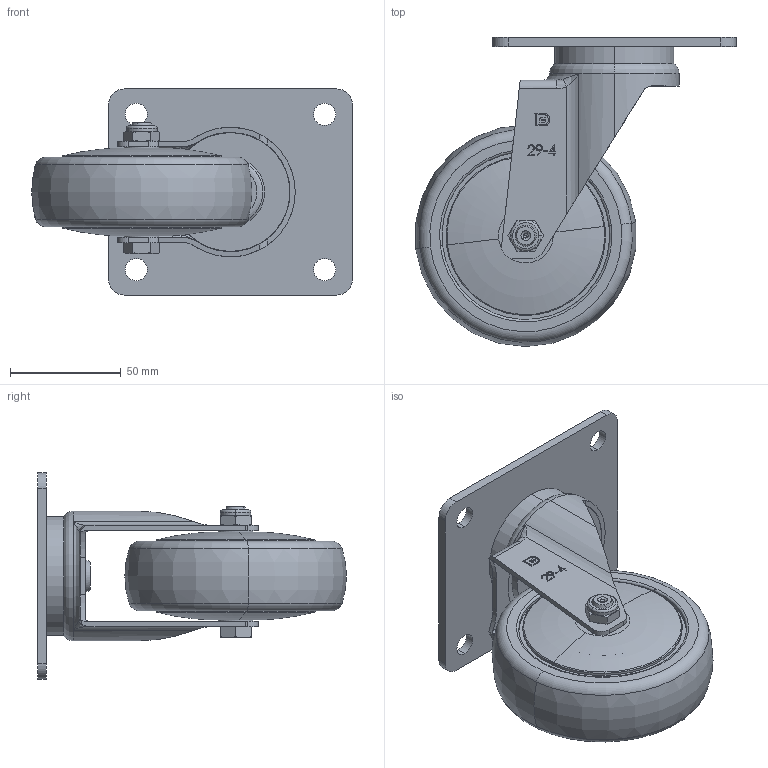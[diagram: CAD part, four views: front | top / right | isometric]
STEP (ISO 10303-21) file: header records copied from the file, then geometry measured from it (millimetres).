
FILE_DESCRIPTION (( 'STEP AP203' ), '1' );
FILE_NAME ('4112904002027-7.STEP', '2025-01-06T05:08:18', ( '' ), ( '' ), 'SwSTEP 2.0', 'SolidWorks 2019', '' );
FILE_SCHEMA (( 'CONFIG_CONTROL_DESIGN' ));
Length unit declared in the file: millimetre
Products named in the file (7): 12130120300011-30系列活動底板-85 70 圓孔10; 245020900003 尼龍螺帽  3 8''''(對邊14x7L); 242020954001 4''''.5''''儀器.高級活動用車心 20240124A8; 242011419007 高級架用底板鉚釘 14.7x19L(New); 4112904002027-7; 29系列4吋活動腳-展示用; 4輪
Assembly tree (6 placements, depth 2):
  4112904002027-7
    29系列4吋活動腳-展示用
    12130120300011-30系列活動底板-85 70 圓孔10
    242011419007 高級架用底板鉚釘 14.7x19L(New)
    245020900003 尼龍螺帽  3 8''''(對邊14x7L)
    242020954001 4''''.5''''儀器.高級活動用車心 20240124A8
    4輪
Bounding box: 144.65 x 139.4 x 93 mm (x, y, z)
Volume: 325990.7 mm3; surface area: 95204.3 mm2
Topology: 6 solids, 8 shells, 333 faces, 792 edges, 499 vertices
Faces by surface type: plane 124, cylinder 92, torus 48, cone 36, bspline 31, sphere 2
Entity records: 12107 total; most frequent: CARTESIAN_POINT 3674, DIRECTION 1642, ORIENTED_EDGE 1576, EDGE_CURVE 788, AXIS2_PLACEMENT_3D 643, VERTEX_POINT 499, EDGE_LOOP 387, LINE 356
